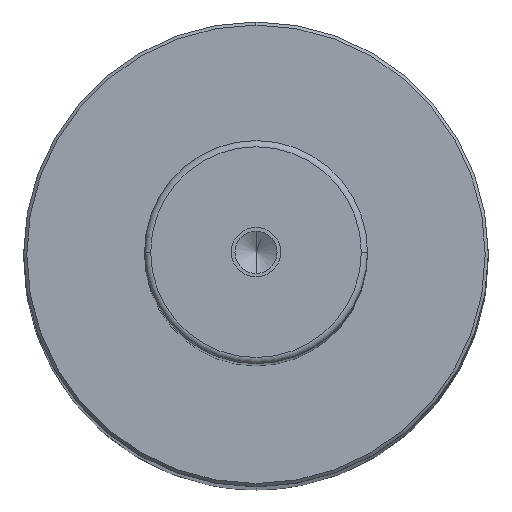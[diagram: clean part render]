
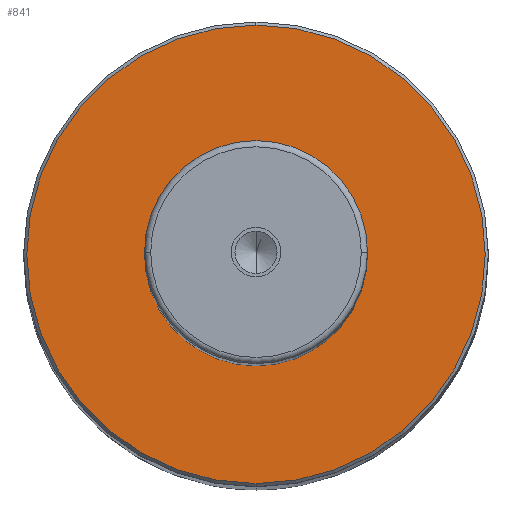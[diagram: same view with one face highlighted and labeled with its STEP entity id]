
A CAD part, top view. The second image highlights one B-rep face of the part: STEP entity #841.
In plain terms, the highlighted planar face has unit normal (0, 0, 1).
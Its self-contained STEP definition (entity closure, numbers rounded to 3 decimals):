
#521 = EDGE_CURVE( '', #889, #939, #1202, .T. );
#573 = EDGE_CURVE( '', #807, #613, #1261, .T. );
#613 = VERTEX_POINT( '', #1306 );
#641 = EDGE_CURVE( '', #613, #807, #1335, .T. );
#807 = VERTEX_POINT( '', #1517 );
#841 = ADVANCED_FACE( '', ( #1556, #1557 ), #1558, .T. );
#889 = VERTEX_POINT( '', #1614 );
#907 = EDGE_CURVE( '', #939, #889, #1634, .T. );
#939 = VERTEX_POINT( '', #1669 );
#1202 = CIRCLE( '', #2025, 18. );
#1261 = CIRCLE( '', #2100, 37. );
#1306 = CARTESIAN_POINT( '', ( 0., -37., 307. ) );
#1335 = CIRCLE( '', #2202, 37. );
#1517 = CARTESIAN_POINT( '', ( 0., 37., 307. ) );
#1556 = FACE_BOUND( '', #2545, .T. );
#1557 = FACE_OUTER_BOUND( '', #2546, .T. );
#1558 = PLANE( '', #2547 );
#1614 = CARTESIAN_POINT( '', ( 0., 18., 307. ) );
#1634 = CIRCLE( '', #2694, 18. );
#1669 = CARTESIAN_POINT( '', ( 0., -18., 307. ) );
#2025 = AXIS2_PLACEMENT_3D( '', #3040, #3041, #3042 );
#2100 = AXIS2_PLACEMENT_3D( '', #3112, #3113, #3114 );
#2202 = AXIS2_PLACEMENT_3D( '', #3202, #3203, #3204 );
#2545 = EDGE_LOOP( '', ( #3470, #3471 ) );
#2546 = EDGE_LOOP( '', ( #3472, #3473 ) );
#2547 = AXIS2_PLACEMENT_3D( '', #3474, #3475, #3476 );
#2694 = AXIS2_PLACEMENT_3D( '', #3578, #3579, #3580 );
#3040 = CARTESIAN_POINT( '', ( 0., 0., 307. ) );
#3041 = DIRECTION( '', ( 0., 0., 1. ) );
#3042 = DIRECTION( '', ( 0., 1., 0. ) );
#3112 = CARTESIAN_POINT( '', ( 0., 0., 307. ) );
#3113 = DIRECTION( '', ( 0., 0., 1. ) );
#3114 = DIRECTION( '', ( 0., 1., 0. ) );
#3202 = CARTESIAN_POINT( '', ( 0., 0., 307. ) );
#3203 = DIRECTION( '', ( 0., 0., 1. ) );
#3204 = DIRECTION( '', ( 0., 1., 0. ) );
#3470 = ORIENTED_EDGE( '', *, *, #521, .F. );
#3471 = ORIENTED_EDGE( '', *, *, #907, .F. );
#3472 = ORIENTED_EDGE( '', *, *, #573, .T. );
#3473 = ORIENTED_EDGE( '', *, *, #641, .T. );
#3474 = CARTESIAN_POINT( '', ( 0., 27.5, 307. ) );
#3475 = DIRECTION( '', ( 0., 0., 1. ) );
#3476 = DIRECTION( '', ( 0., 1., 0. ) );
#3578 = CARTESIAN_POINT( '', ( 0., 0., 307. ) );
#3579 = DIRECTION( '', ( 0., 0., 1. ) );
#3580 = DIRECTION( '', ( 0., 1., 0. ) );
